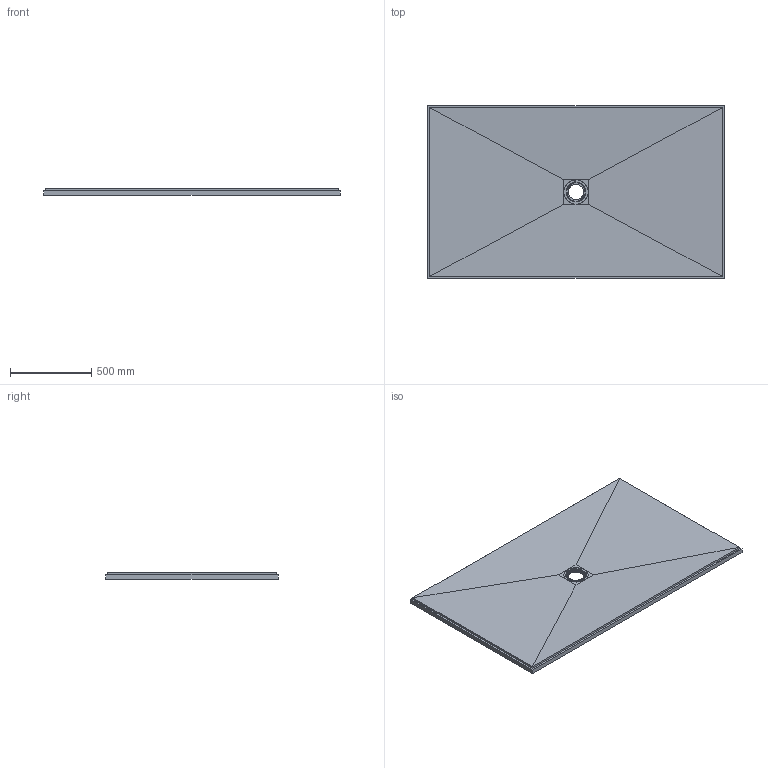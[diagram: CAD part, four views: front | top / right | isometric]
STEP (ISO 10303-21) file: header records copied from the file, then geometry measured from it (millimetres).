
FILE_DESCRIPTION(/* description */ ('Fertigteil'),/* implementation_level */ '2;1');
FILE_NAME(/* name */ 'C:\Users\fuser-vault-job\AppData\Local\Temp\MuM_lppaqfct.0cq\D-000001906.iam_.step',/* time_stamp */ '2022-07-14T10:39:18+02:00',/* author */ ('ds'),/* organization */ (''),/* preprocessor_version */ 'ST-DEVELOPER v18.1',/* originating_system */ 'Autodesk Inventor 2020',/* authorisation */ '');
FILE_SCHEMA (('AUTOMOTIVE_DESIGN { 1 0 10303 214 3 1 1 }'));
Products named in the file (3): 073740065; 073740065_1; DD0000003
Assembly tree (2 placements, depth 2):
  073740065
    073740065_1
    DD0000003
Bounding box: 1828.8 x 1066.8 x 40 mm (x, y, z)
Volume: 64515019.1 mm3; surface area: 4158269.5 mm2
Topology: 2 solids, 2 shells, 743 faces, 2186 edges, 1467 vertices
Faces by surface type: bspline 372, torus 115, cone 78, cylinder 76, plane 68, sphere 34
Full cylindrical faces by diameter (mm): 6 x3, 151 x1
Entity records: 63131 total; most frequent: CARTESIAN_POINT 44887, ORIENTED_EDGE 4326, DIRECTION 3299, EDGE_CURVE 2163, VERTEX_POINT 1458, AXIS2_PLACEMENT_3D 1339, CIRCLE 813, EDGE_LOOP 803
